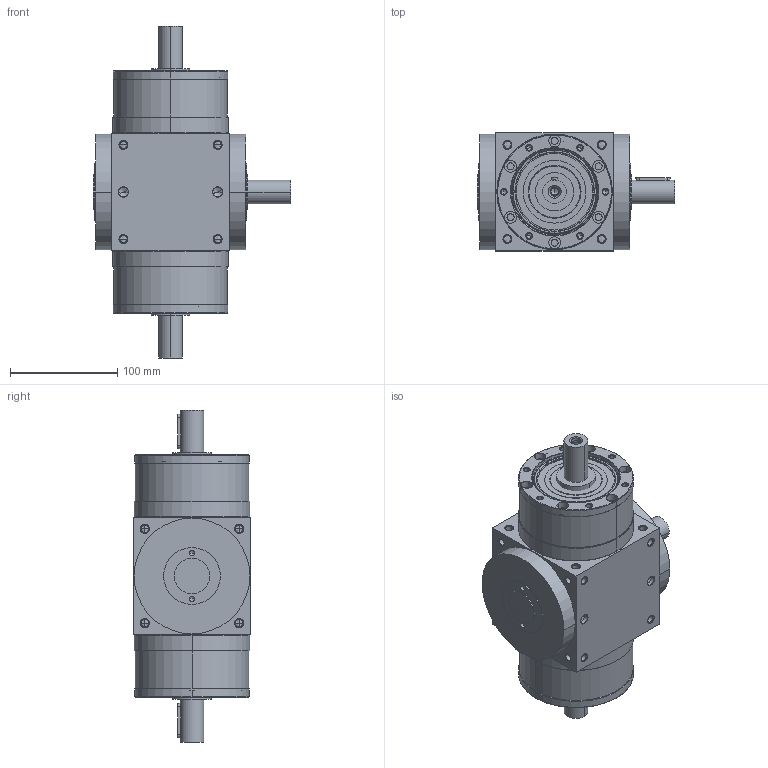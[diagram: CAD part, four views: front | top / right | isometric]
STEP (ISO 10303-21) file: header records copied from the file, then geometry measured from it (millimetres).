
FILE_DESCRIPTION((''),'2;1');
FILE_NAME('ATB110RM-1_ASM','2014-07-17T',('D00080'),(''),'PRO/ENGINEER BY PARAMETRIC TECHNOLOGY CORPORATION, 2008170','PRO/ENGINEER BY PARAMETRIC TECHNOLOGY CORPORATION, 2008170','');
FILE_SCHEMA(('CONFIG_CONTROL_DESIGN'));
Length unit declared in the file: millimetre
Products named in the file (4): ATBRM-HOUSING-1-5; P1820500001; 22400071005; ATB110RM-1_ASM
Assembly tree (5 placements, depth 2):
  ATB110RM-1_ASM
    ATBRM-HOUSING-1-5
    P1820500001  x2
    22400071005  x2
Bounding box: 184 x 110 x 310 mm (x, y, z)
Volume: 2352932.2 mm3; surface area: 268764.2 mm2
Topology: 7 solids, 46 shells, 823 faces, 1997 edges, 1181 vertices
Faces by surface type: cylinder 370, cone 276, plane 111, torus 66
Entity records: 18175 total; most frequent: CARTESIAN_POINT 3821, DIRECTION 3225, ORIENTED_EDGE 2722, EDGE_CURVE 1427, AXIS2_PLACEMENT_3D 1353, VERTEX_POINT 894, CIRCLE 736, EDGE_LOOP 715
